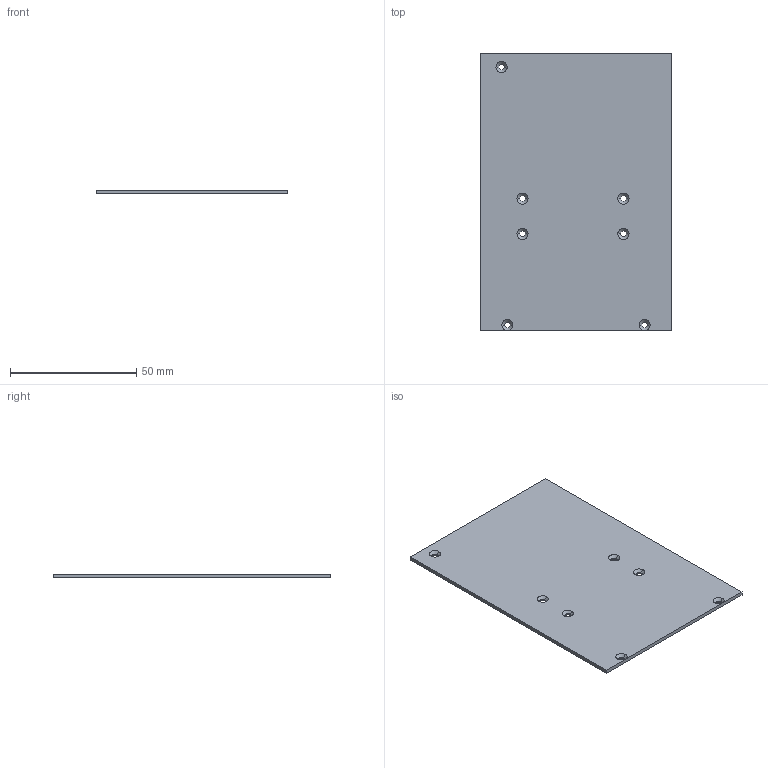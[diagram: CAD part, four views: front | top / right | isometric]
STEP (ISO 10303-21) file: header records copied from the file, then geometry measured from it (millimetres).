
FILE_DESCRIPTION (( 'STEP AP214' ), '1' );
FILE_NAME ('Panel_noIF.STEP', '2025-01-13T17:27:31', ( '' ), ( '' ), 'SwSTEP 2.0', 'SolidWorks 2022', '' );
FILE_SCHEMA (( 'AUTOMOTIVE_DESIGN' ));
Length unit declared in the file: millimetre
Products named in the file (1): Panel_noIF
Bounding box: 76 x 110 x 1.5 mm (x, y, z)
Volume: 12458.8 mm3; surface area: 17272 mm2
Topology: 1 solids, 1 shells, 34 faces, 82 edges, 50 vertices
Faces by surface type: cone 14, cylinder 14, plane 6
Entity records: 1058 total; most frequent: DIRECTION 194, CARTESIAN_POINT 167, ORIENTED_EDGE 164, EDGE_CURVE 82, AXIS2_PLACEMENT_3D 77, VERTEX_POINT 50, EDGE_LOOP 48, CIRCLE 42
